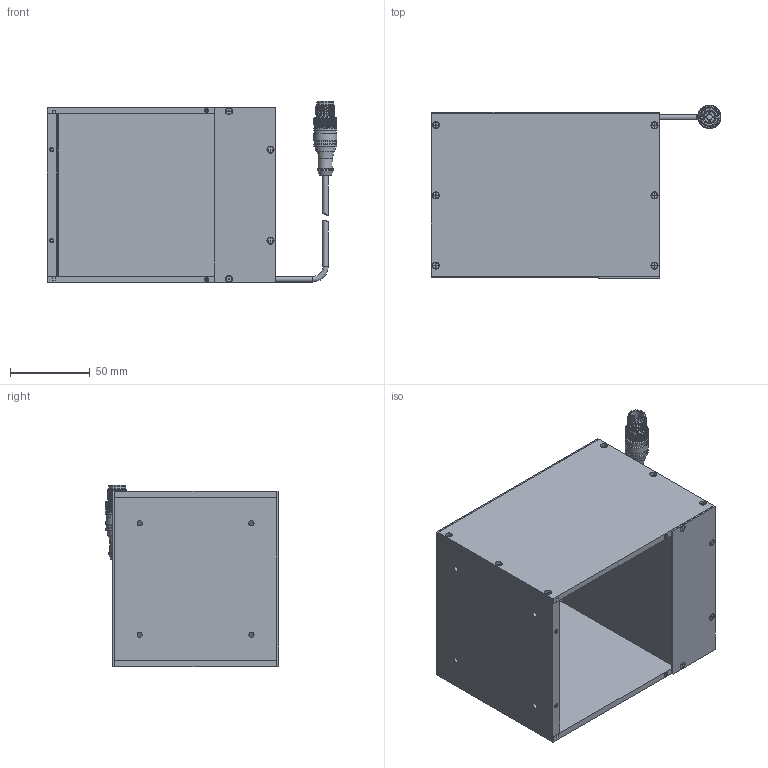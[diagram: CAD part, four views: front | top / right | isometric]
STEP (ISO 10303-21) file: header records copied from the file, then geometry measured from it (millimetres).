
FILE_DESCRIPTION (( 'STEP AP203' ), '1' );
FILE_NAME ('EFFI-COAX-100-x.STEP', '2019-05-28T07:52:03', ( '' ), ( '' ), 'SwSTEP 2.0', 'SolidWorks 2011', '' );
FILE_SCHEMA (( 'CONFIG_CONTROL_DESIGN' ));
Products named in the file (1): EFFI-COAX-100-x
Bounding box: 181.65 x 108.4 x 113.9 mm (x, y, z)
Surface area: 157108.8 mm2 (no closed solid volume)
Topology: 0 solids, 607 shells, 1313 faces, 5582 edges, 4858 vertices
Faces by surface type: bspline 814, plane 239, cylinder 147, cone 102, torus 11
Full cylindrical faces by diameter (mm): 1 x4, 1.6 x4, 3.3 x8, 3.5 x3, 4 x10, 4.4 x12, 5 x1, 8.3 x1, 10.5 x1, 10.7 x1, 10.9 x1, 11 x1, 12 x6, 13.75 x1, 13.9 x2, 14.499 x1, 14.5 x2
Entity records: 66568 total; most frequent: CARTESIAN_POINT 35545, ORIENTED_EDGE 6352, EDGE_CURVE 5387, VERTEX_POINT 4805, DIRECTION 2833, B_SPLINE_CURVE_WITH_KNOTS 2795, EDGE_LOOP 1558, FACE_OUTER_BOUND 1385
